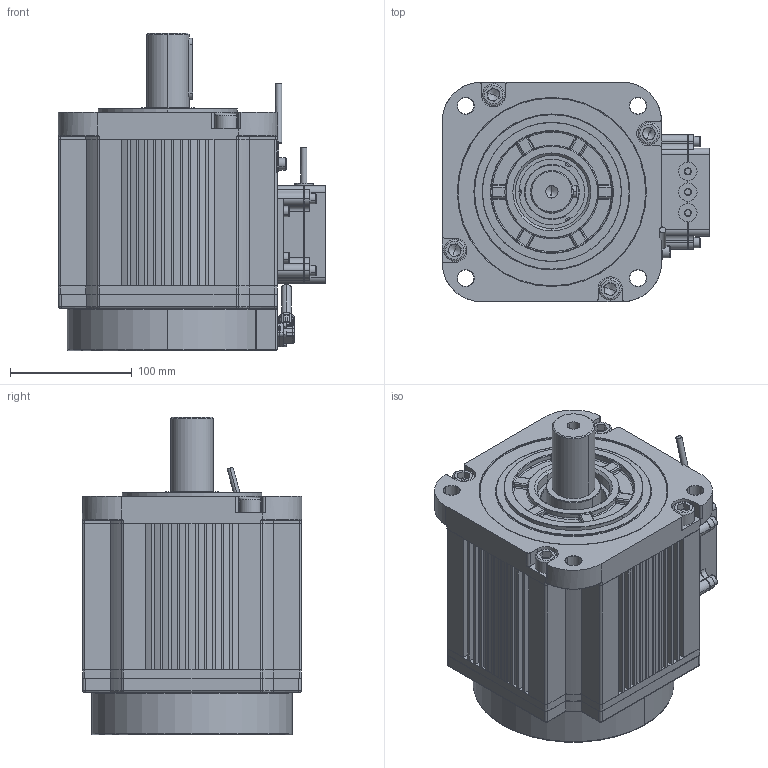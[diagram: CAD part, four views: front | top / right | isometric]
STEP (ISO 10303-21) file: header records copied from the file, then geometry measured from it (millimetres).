
FILE_DESCRIPTION (( 'STEP AP203' ), '1' );
FILE_NAME ('軞蚾.STEP', '2025-01-06T11:26:07', ( 'wuyd' ), ( '' ), 'SwSTEP 2.0', 'SolidWorks 2023', '' );
FILE_SCHEMA (( 'CONFIG_CONTROL_DESIGN' ));
Length unit declared in the file: millimetre
Products named in the file (1): 总装
Bounding box: 219.65 x 180 x 260.5 mm (x, y, z)
Volume: 1506244.7 mm3; surface area: 557768.6 mm2
Topology: 53 solids, 53 shells, 3972 faces, 9926 edges, 6095 vertices
Faces by surface type: plane 1855, cylinder 1131, torus 364, cone 303, bspline 229, sphere 90
Entity records: 129392 total; most frequent: CARTESIAN_POINT 35253, DIRECTION 19855, ORIENTED_EDGE 19438, EDGE_CURVE 9719, AXIS2_PLACEMENT_3D 7129, VERTEX_POINT 6060, LINE 5597, VECTOR 5597
